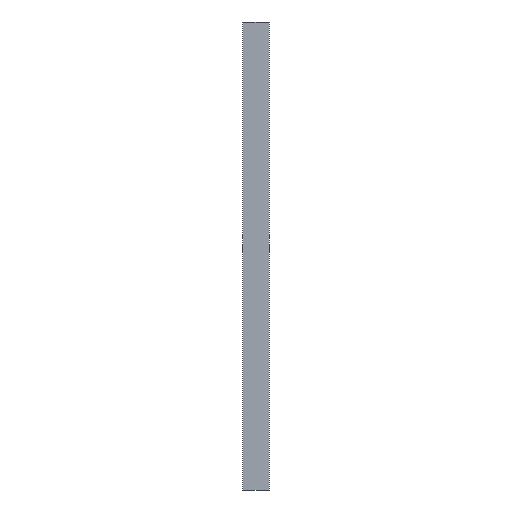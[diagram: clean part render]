
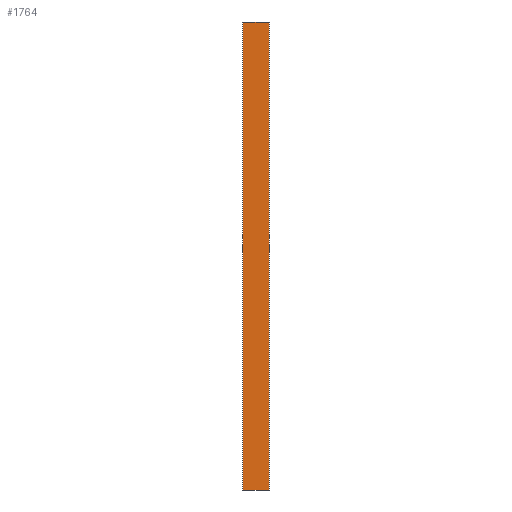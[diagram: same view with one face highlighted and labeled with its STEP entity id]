
A CAD part, front view. The second image highlights one B-rep face of the part: STEP entity #1764.
In plain terms, the highlighted planar face has unit normal (0, -1, 0).
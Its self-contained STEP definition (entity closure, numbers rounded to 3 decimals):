
#136=ORIENTED_EDGE('',*,*,#675,.F.);
#137=ORIENTED_EDGE('',*,*,#674,.F.);
#138=ORIENTED_EDGE('',*,*,#676,.T.);
#139=ORIENTED_EDGE('',*,*,#677,.T.);
#674=EDGE_CURVE('',#943,#942,#1122,.T.);
#675=EDGE_CURVE('',#942,#944,#1123,.T.);
#676=EDGE_CURVE('',#943,#945,#1124,.T.);
#677=EDGE_CURVE('',#945,#944,#1125,.T.);
#942=VERTEX_POINT('',#2571);
#943=VERTEX_POINT('',#2573);
#944=VERTEX_POINT('',#2577);
#945=VERTEX_POINT('',#2579);
#1122=LINE('',#2574,#1320);
#1123=LINE('',#2576,#1321);
#1124=LINE('',#2578,#1322);
#1125=LINE('',#2580,#1323);
#1320=VECTOR('',#2045,1000.);
#1321=VECTOR('',#2048,1000.);
#1322=VECTOR('',#2049,1000.);
#1323=VECTOR('',#2050,1000.);
#1516=EDGE_LOOP('',(#136,#137,#138,#139));
#1612=FACE_BOUND('',#1516,.T.);
#1707=PLANE('',#1871);
#1764=ADVANCED_FACE('',(#1612),#1707,.T.);
#1871=AXIS2_PLACEMENT_3D('',#2575,#2046,#2047);
#2045=DIRECTION('',(0.,0.,1.));
#2046=DIRECTION('',(0.,-1.,0.));
#2047=DIRECTION('',(0.,0.,-1.));
#2048=DIRECTION('',(1.,0.,0.));
#2049=DIRECTION('',(1.,0.,0.));
#2050=DIRECTION('',(0.,0.,1.));
#2571=CARTESIAN_POINT('',(-67.257,0.,0.));
#2573=CARTESIAN_POINT('',(-67.257,0.,-2400.));
#2574=CARTESIAN_POINT('',(-67.257,0.,-2400.));
#2575=CARTESIAN_POINT('',(-67.257,0.,-2400.));
#2576=CARTESIAN_POINT('',(-67.257,0.,0.));
#2577=CARTESIAN_POINT('',(67.257,0.,0.));
#2578=CARTESIAN_POINT('',(-67.257,0.,-2400.));
#2579=CARTESIAN_POINT('',(67.257,0.,-2400.));
#2580=CARTESIAN_POINT('',(67.257,0.,-2400.));
